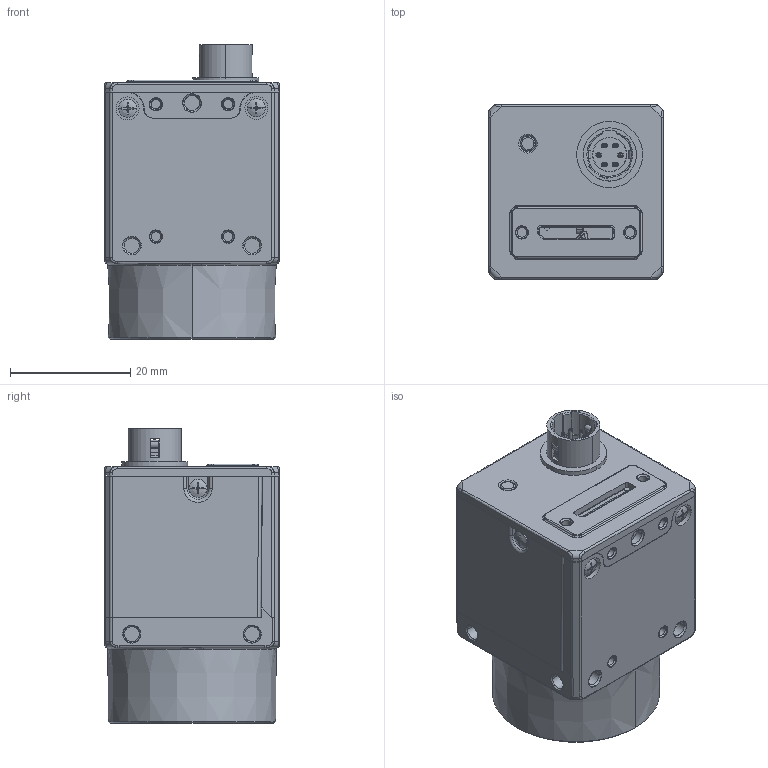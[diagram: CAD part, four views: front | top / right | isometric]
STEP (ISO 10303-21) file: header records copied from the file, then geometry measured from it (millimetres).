
FILE_DESCRIPTION((''),'2;1');
FILE_NAME('00-CH120-10GMCUMC-V4_0_ASM','2022-11-30T22:37:10',('sunli10'),(''),'CREO PARAMETRIC BY PTC INC, 2020044','CREO PARAMETRIC BY PTC INC, 2020044','');
FILE_SCHEMA(('CONFIG_CONTROL_DESIGN'));
Products named in the file (1): 00-CH120-10GMCUMC-V4_0_ASM
Bounding box: 29.03 x 29 x 48.98 mm (x, y, z)
Volume: 26277.5 mm3; surface area: 16767.9 mm2
Topology: 3 solids, 55 shells, 2328 faces, 6383 edges, 4106 vertices
Faces by surface type: plane 1062, cylinder 791, bspline 251, torus 100, cone 99, extrusion 15, sphere 10
Entity records: 93358 total; most frequent: CARTESIAN_POINT 36742, ORIENTED_EDGE 12603, DIRECTION 10661, EDGE_CURVE 6381, VERTEX_POINT 4106, AXIS2_PLACEMENT_3D 3691, VECTOR 3279, LINE 3264
